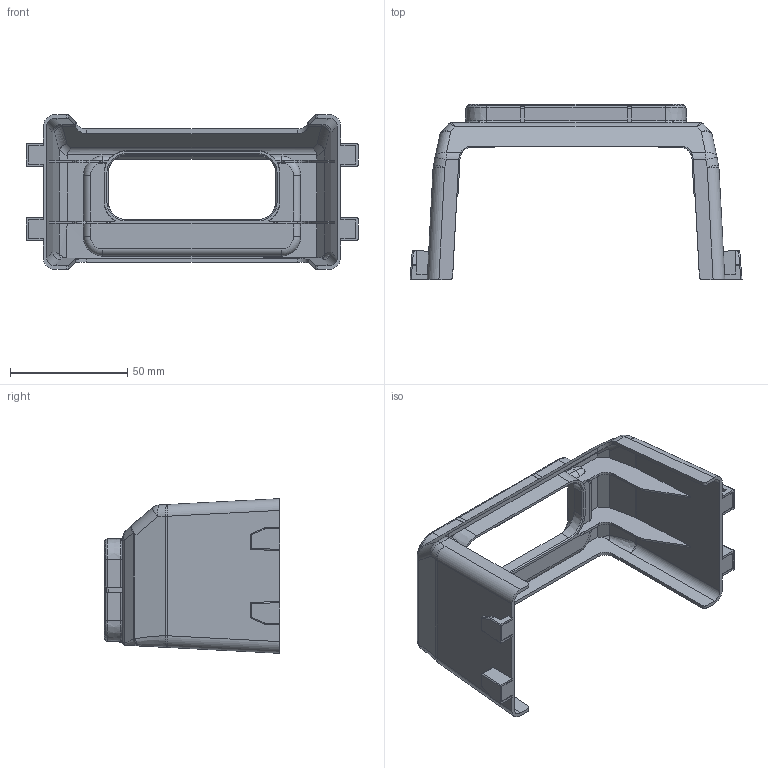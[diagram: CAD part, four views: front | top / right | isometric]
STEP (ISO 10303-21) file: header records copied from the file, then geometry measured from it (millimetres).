
FILE_DESCRIPTION(/* description */ ('STEP AP214'),/* implementation_level */ '2;1');
FILE_NAME(/* name */ 'PolyDryer Box XL Adapter.step',/* time_stamp */ '2026-04-02T15:19:48+02:00',/* author */ (''),/* organization */ (''),/* preprocessor_version */ 'ST-DEVELOPER v20.1',/* originating_system */ 'Autodesk Translation Framework v14.24.0.0',/* authorisation */ '');
FILE_SCHEMA (('AUTOMOTIVE_DESIGN { 1 0 10303 214 3 1 1 }'));
Length unit declared in the file: millimetre
Products named in the file (2): 0_PXL-MAS-MASS_with dry dock_package ref; PXL-07-DDAM
Assembly tree (1 placements, depth 2):
  0_PXL-MAS-MASS_with dry dock_package ref
    PXL-07-DDAM
Bounding box: 141.7 x 75 x 66 mm (x, y, z)
Volume: 34163.3 mm3; surface area: 44443.9 mm2
Topology: 1 solids, 1 shells, 597 faces, 1599 edges, 1010 vertices
Faces by surface type: plane 315, cylinder 128, bspline 88, cone 32, torus 26, sphere 8
Entity records: 23998 total; most frequent: CARTESIAN_POINT 9454, ORIENTED_EDGE 3178, DIRECTION 2826, EDGE_CURVE 1589, LINE 1014, VECTOR 1014, VERTEX_POINT 1010, AXIS2_PLACEMENT_3D 906
